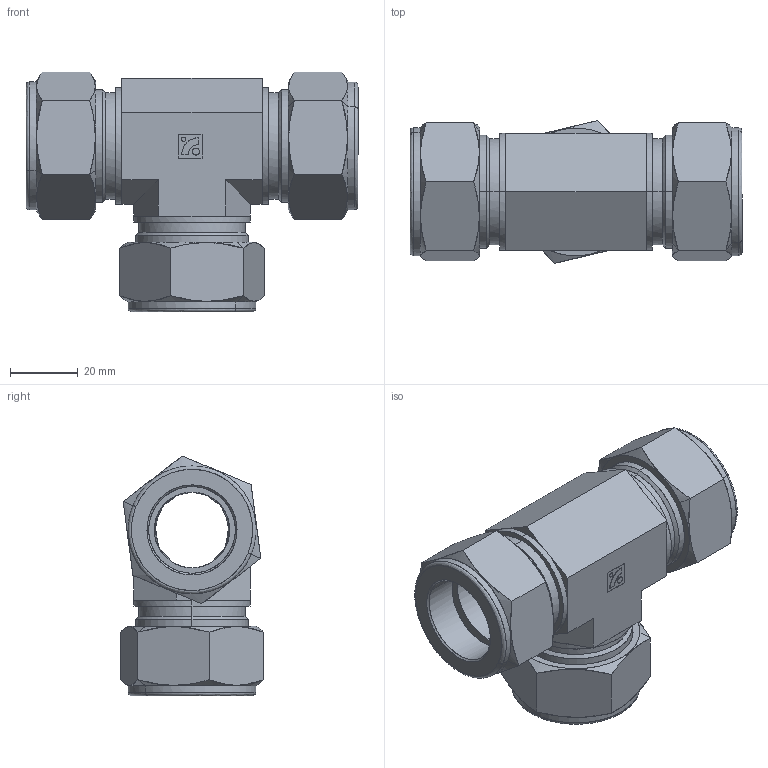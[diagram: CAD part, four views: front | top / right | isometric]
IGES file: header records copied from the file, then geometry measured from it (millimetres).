
Start section: Comment
Global section: file name: SUT-16.igs; native system:  By UGS Corp.; preprocessor: XPlus GENERIC/IGES 3.0; author: Author; organization: Title; date: 20100122.185524; units: millimetre
Bounding box: 98.04 x 42.15 x 70.83 mm (x, y, z)
Surface area: 36394.1 mm2 (no closed solid volume)
Topology: 0 solids, 0 shells, 195 faces, 848 edges, 848 vertices
Faces by surface type: bspline 195
